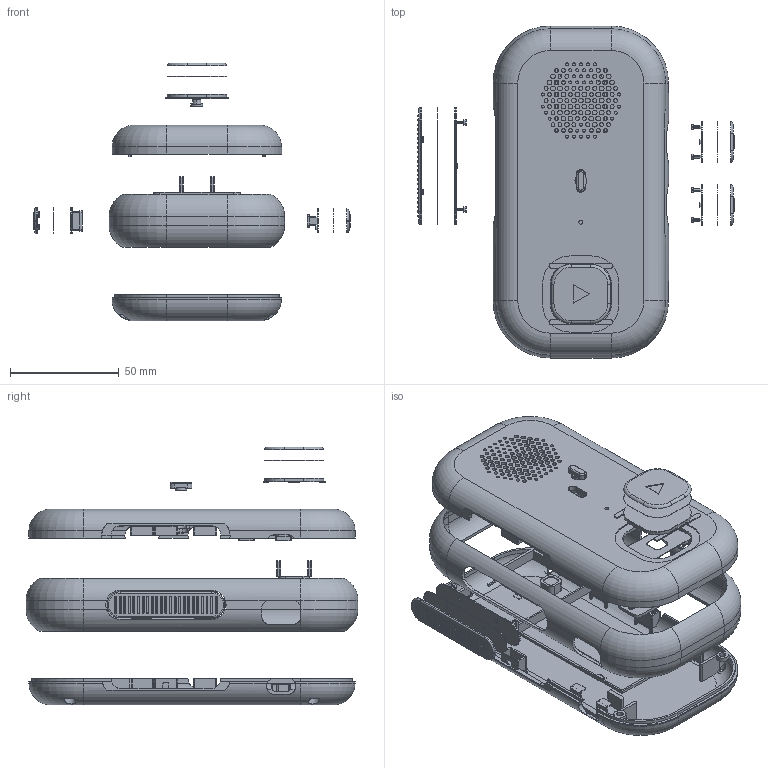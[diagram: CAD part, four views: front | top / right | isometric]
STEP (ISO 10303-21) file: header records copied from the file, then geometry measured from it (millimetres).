
FILE_DESCRIPTION(('Open CASCADE Model'),'2;1');
FILE_NAME('Concept_27_R1_Exploded_Manufactured_Parts', '2026-09-09T14:38:43',('Author'),('Open CASCADE'), 'Open CASCADE STEP processor 7.9','build123d','Unknown');
FILE_SCHEMA(('AUTOMOTIVE_DESIGN { 1 0 10303 214 1 1 1 1 }'));
Length unit declared in the file: millimetre
Products named in the file (18): Concept_27_R1_Exploded_Manufactured_Parts; C27_01_Front_Shell_Chalk_Centered_Mic; C27_02_Back_Shell_Chalk_Unchanged; C27_03_Front_Action_Rigid_Carrier; C27_04_Status_Lens_Unchanged; C27_05_Front_Switch_Clamp_Unchanged; C27_06_PTT_Rigid_Carrier; C27_07_Volume_Up_Rigid_Carrier; C27_08_Volume_Down_Rigid_Carrier; C27_09_Warm_Grey_Elastomer_Rim; C27_10_Front_Action_Pewter_Cap; C27_11_Front_Action_Bond_Film; C27_12_Volume_Up_Pewter_Cap; C27_13_Volume_Up_Bond_Film; C27_14_Volume_Down_Pewter_Cap; C27_15_Volume_Down_Bond_Film; C27_16_Orange_Ribbed_PTT_Grip; C27_17_PTT_Bond_Film
Assembly tree (17 placements, depth 2):
  Concept_27_R1_Exploded_Manufactured_Parts
    C27_01_Front_Shell_Chalk_Centered_Mic
    C27_02_Back_Shell_Chalk_Unchanged
    C27_03_Front_Action_Rigid_Carrier
    C27_04_Status_Lens_Unchanged
    C27_05_Front_Switch_Clamp_Unchanged
    C27_06_PTT_Rigid_Carrier
    C27_07_Volume_Up_Rigid_Carrier
    C27_08_Volume_Down_Rigid_Carrier
    C27_09_Warm_Grey_Elastomer_Rim
    C27_10_Front_Action_Pewter_Cap
    C27_11_Front_Action_Bond_Film
    C27_12_Volume_Up_Pewter_Cap
    C27_13_Volume_Up_Bond_Film
    C27_14_Volume_Down_Pewter_Cap
    C27_15_Volume_Down_Bond_Film
    C27_16_Orange_Ribbed_PTT_Grip
    C27_17_PTT_Bond_Film
Bounding box: 145.35 x 152.7 x 118.55 mm (x, y, z)
Volume: 77187.1 mm3; surface area: 102143.9 mm2
Topology: 17 solids, 19 shells, 2985 faces, 8173 edges, 5326 vertices
Faces by surface type: plane 1297, cylinder 1160, bspline 352, torus 176
Full cylindrical faces by diameter (mm): 1.4 x32, 1.5 x4, 1.7 x12, 1.8 x49, 2.1 x4, 2.2 x42, 2.6 x6, 2.8 x4, 2.9 x8, 3 x3, 4.2 x8, 5 x1, 5.3 x1, 5.4 x1, 5.5 x1, 8 x1
Entity records: 222987 total; most frequent: CARTESIAN_POINT 64716, DIRECTION 27792, ORIENTED_EDGE 16346, PCURVE 16346, DEFINITIONAL_REPRESENTATION 16346, LINE 16128, VECTOR 16128, EDGE_CURVE 8173
